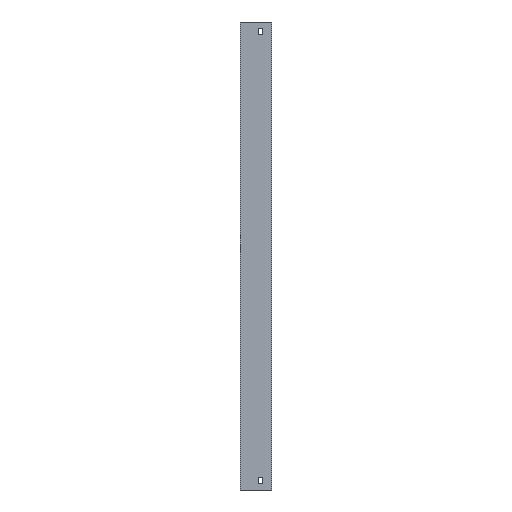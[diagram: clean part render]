
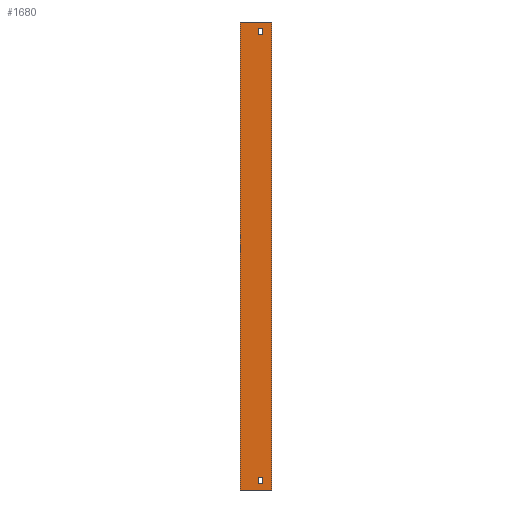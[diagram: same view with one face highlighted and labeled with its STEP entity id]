
A CAD part, left-side view. The second image highlights one B-rep face of the part: STEP entity #1680.
In plain terms, the highlighted planar face has unit normal (-1, 0, 0).
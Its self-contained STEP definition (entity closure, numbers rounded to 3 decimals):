
#41 = CARTESIAN_POINT ( 'NONE',  ( -604., 15., 20. ) ) ;
#44 = LINE ( 'NONE', #1094, #310 ) ;
#60 = ORIENTED_EDGE ( 'NONE', *, *, #1892, .F. ) ;
#68 = ORIENTED_EDGE ( 'NONE', *, *, #250, .T. ) ;
#80 = DIRECTION ( 'NONE',  ( 1., 0., 0. ) ) ;
#104 = FACE_OUTER_BOUND ( 'NONE', #718, .T. ) ;
#108 = VERTEX_POINT ( 'NONE', #860 ) ;
#115 = LINE ( 'NONE', #225, #1577 ) ;
#135 = EDGE_CURVE ( 'NONE', #316, #522, #875, .T. ) ;
#169 = CARTESIAN_POINT ( 'NONE',  ( -604., 22., -724. ) ) ;
#178 = ORIENTED_EDGE ( 'NONE', *, *, #414, .F. ) ;
#225 = CARTESIAN_POINT ( 'NONE',  ( -604., 22., -724. ) ) ;
#231 = LINE ( 'NONE', #1713, #1202 ) ;
#250 = EDGE_CURVE ( 'NONE', #1528, #1244, #1265, .T. ) ;
#256 = CARTESIAN_POINT ( 'NONE',  ( -604., 52., -734. ) ) ;
#295 = EDGE_CURVE ( 'NONE', #999, #108, #1386, .T. ) ;
#310 = VECTOR ( 'NONE', #1190, 1000. ) ;
#316 = VERTEX_POINT ( 'NONE', #915 ) ;
#323 = DIRECTION ( 'NONE',  ( 0., -1., 0. ) ) ;
#326 = LINE ( 'NONE', #1846, #337 ) ;
#337 = VECTOR ( 'NONE', #1074, 1000. ) ;
#342 = LINE ( 'NONE', #527, #938 ) ;
#348 = VERTEX_POINT ( 'NONE', #41 ) ;
#354 = VERTEX_POINT ( 'NONE', #469 ) ;
#364 = DIRECTION ( 'NONE',  ( 0., 0., 1. ) ) ;
#392 = EDGE_CURVE ( 'NONE', #1420, #999, #1534, .T. ) ;
#414 = EDGE_CURVE ( 'NONE', #354, #963, #709, .T. ) ;
#469 = CARTESIAN_POINT ( 'NONE',  ( -604., 15., -724. ) ) ;
#489 = EDGE_CURVE ( 'NONE', #1420, #1717, #845, .T. ) ;
#522 = VERTEX_POINT ( 'NONE', #169 ) ;
#527 = CARTESIAN_POINT ( 'NONE',  ( -604., 22., -714. ) ) ;
#573 = LINE ( 'NONE', #1798, #1013 ) ;
#610 = CARTESIAN_POINT ( 'NONE',  ( -604., 52., 30. ) ) ;
#624 = ORIENTED_EDGE ( 'NONE', *, *, #779, .T. ) ;
#698 = DIRECTION ( 'NONE',  ( 0., -1., 0. ) ) ;
#709 = LINE ( 'NONE', #1449, #998 ) ;
#718 = EDGE_LOOP ( 'NONE', ( #985, #1863, #1913, #1210 ) ) ;
#736 = DIRECTION ( 'NONE',  ( 0., 0., 1. ) ) ;
#779 = EDGE_CURVE ( 'NONE', #348, #1192, #231, .T. ) ;
#783 = CARTESIAN_POINT ( 'NONE',  ( -604., 52., -734. ) ) ;
#826 = DIRECTION ( 'NONE',  ( 0., -1., 0. ) ) ;
#845 = LINE ( 'NONE', #256, #1807 ) ;
#860 = CARTESIAN_POINT ( 'NONE',  ( -604., 0., 30. ) ) ;
#875 = LINE ( 'NONE', #1800, #1524 ) ;
#915 = CARTESIAN_POINT ( 'NONE',  ( -604., 22., -714. ) ) ;
#938 = VECTOR ( 'NONE', #1865, 1000. ) ;
#963 = VERTEX_POINT ( 'NONE', #1482 ) ;
#964 = ORIENTED_EDGE ( 'NONE', *, *, #1610, .T. ) ;
#985 = ORIENTED_EDGE ( 'NONE', *, *, #1749, .T. ) ;
#998 = VECTOR ( 'NONE', #364, 1000. ) ;
#999 = VERTEX_POINT ( 'NONE', #610 ) ;
#1013 = VECTOR ( 'NONE', #736, 1000. ) ;
#1058 = CARTESIAN_POINT ( 'NONE',  ( -604., 22., 20. ) ) ;
#1074 = DIRECTION ( 'NONE',  ( 0., 1., 0. ) ) ;
#1094 = CARTESIAN_POINT ( 'NONE',  ( -604., 22., 20. ) ) ;
#1096 = EDGE_LOOP ( 'NONE', ( #1769, #1926, #60, #178 ) ) ;
#1105 = FACE_BOUND ( 'NONE', #1174, .T. ) ;
#1174 = EDGE_LOOP ( 'NONE', ( #68, #964, #624, #1303 ) ) ;
#1184 = VECTOR ( 'NONE', #1298, 1000. ) ;
#1190 = DIRECTION ( 'NONE',  ( 0., -1., 0. ) ) ;
#1192 = VERTEX_POINT ( 'NONE', #1647 ) ;
#1202 = VECTOR ( 'NONE', #1571, 1000. ) ;
#1207 = VECTOR ( 'NONE', #1396, 1000. ) ;
#1210 = ORIENTED_EDGE ( 'NONE', *, *, #489, .T. ) ;
#1219 = AXIS2_PLACEMENT_3D ( 'NONE', #1590, #80, #1262 ) ;
#1244 = VERTEX_POINT ( 'NONE', #1058 ) ;
#1262 = DIRECTION ( 'NONE',  ( 0., 0., -1. ) ) ;
#1265 = LINE ( 'NONE', #1876, #1184 ) ;
#1298 = DIRECTION ( 'NONE',  ( 0., 0., 1. ) ) ;
#1303 = ORIENTED_EDGE ( 'NONE', *, *, #1564, .T. ) ;
#1348 = DIRECTION ( 'NONE',  ( 0., 0., -1. ) ) ;
#1386 = LINE ( 'NONE', #1672, #1407 ) ;
#1396 = DIRECTION ( 'NONE',  ( 0., 0., 1. ) ) ;
#1407 = VECTOR ( 'NONE', #323, 1000. ) ;
#1411 = CARTESIAN_POINT ( 'NONE',  ( -604., 52., -734. ) ) ;
#1416 = FACE_BOUND ( 'NONE', #1096, .T. ) ;
#1420 = VERTEX_POINT ( 'NONE', #1411 ) ;
#1449 = CARTESIAN_POINT ( 'NONE',  ( -604., 15., -724. ) ) ;
#1473 = CARTESIAN_POINT ( 'NONE',  ( -604., 22., 10. ) ) ;
#1482 = CARTESIAN_POINT ( 'NONE',  ( -604., 15., -714. ) ) ;
#1524 = VECTOR ( 'NONE', #1348, 1000. ) ;
#1528 = VERTEX_POINT ( 'NONE', #1473 ) ;
#1534 = LINE ( 'NONE', #783, #1207 ) ;
#1564 = EDGE_CURVE ( 'NONE', #1192, #1528, #326, .T. ) ;
#1571 = DIRECTION ( 'NONE',  ( 0., 0., -1. ) ) ;
#1577 = VECTOR ( 'NONE', #826, 1000. ) ;
#1590 = CARTESIAN_POINT ( 'NONE',  ( -604., 52., -734. ) ) ;
#1610 = EDGE_CURVE ( 'NONE', #1244, #348, #44, .T. ) ;
#1647 = CARTESIAN_POINT ( 'NONE',  ( -604., 15., 10. ) ) ;
#1648 = EDGE_CURVE ( 'NONE', #522, #354, #115, .T. ) ;
#1672 = CARTESIAN_POINT ( 'NONE',  ( -604., 52., 30. ) ) ;
#1680 = ADVANCED_FACE ( 'NONE', ( #104, #1105, #1416 ), #1706, .F. ) ;
#1706 = PLANE ( 'NONE',  #1219 ) ;
#1713 = CARTESIAN_POINT ( 'NONE',  ( -604., 15., 20. ) ) ;
#1717 = VERTEX_POINT ( 'NONE', #1886 ) ;
#1749 = EDGE_CURVE ( 'NONE', #1717, #108, #573, .T. ) ;
#1769 = ORIENTED_EDGE ( 'NONE', *, *, #1648, .F. ) ;
#1798 = CARTESIAN_POINT ( 'NONE',  ( -604., 0., -734. ) ) ;
#1800 = CARTESIAN_POINT ( 'NONE',  ( -604., 22., -724. ) ) ;
#1807 = VECTOR ( 'NONE', #698, 1000. ) ;
#1846 = CARTESIAN_POINT ( 'NONE',  ( -604., 22., 10. ) ) ;
#1863 = ORIENTED_EDGE ( 'NONE', *, *, #295, .F. ) ;
#1865 = DIRECTION ( 'NONE',  ( 0., 1., 0. ) ) ;
#1876 = CARTESIAN_POINT ( 'NONE',  ( -604., 22., 20. ) ) ;
#1886 = CARTESIAN_POINT ( 'NONE',  ( -604., 0., -734. ) ) ;
#1892 = EDGE_CURVE ( 'NONE', #963, #316, #342, .T. ) ;
#1913 = ORIENTED_EDGE ( 'NONE', *, *, #392, .F. ) ;
#1926 = ORIENTED_EDGE ( 'NONE', *, *, #135, .F. ) ;
